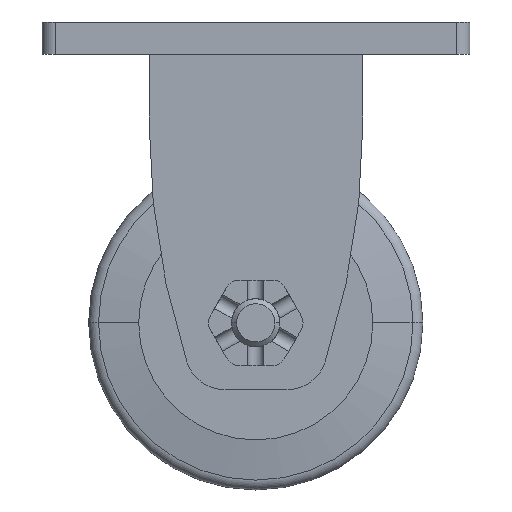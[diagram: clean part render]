
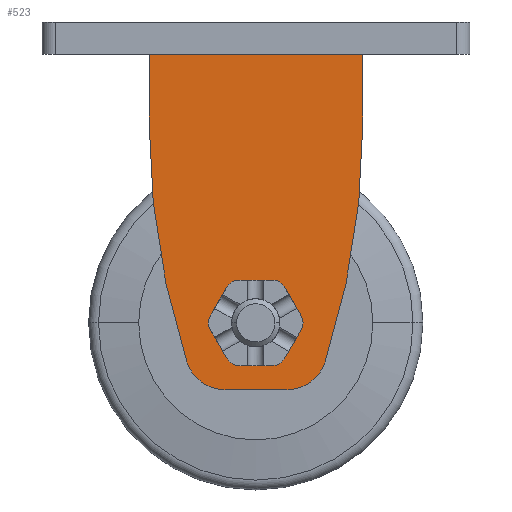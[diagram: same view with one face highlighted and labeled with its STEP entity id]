
A CAD part, front view. The second image highlights one B-rep face of the part: STEP entity #523.
In plain terms, the highlighted planar face has unit normal (0, -1, 0).
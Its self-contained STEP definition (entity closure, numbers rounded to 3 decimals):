
#523=ADVANCED_FACE('',(#1383,#1384),#869,.F.);
#869=PLANE('',#6803);
#1383=FACE_BOUND('',#1460,.T.);
#1384=FACE_BOUND('',#1461,.T.);
#1460=EDGE_LOOP('',(#2339,#2340,#2341,#2342,#2343,#2344,#2345,#2346));
#1461=EDGE_LOOP('',(#2347,#2348,#2349,#2350,#2351,#2352,#2353,#2354,#2355,
#2356,#2357,#2358));
#1897=CIRCLE('',#6793,15.);
#1898=CIRCLE('',#6794,15.);
#1899=CIRCLE('',#6795,294.);
#1900=CIRCLE('',#6796,294.);
#1901=CIRCLE('',#6797,5.);
#1902=CIRCLE('',#6798,5.);
#1903=CIRCLE('',#6799,5.);
#1904=CIRCLE('',#6800,5.);
#1905=CIRCLE('',#6801,5.);
#1906=CIRCLE('',#6802,5.);
#2339=ORIENTED_EDGE('',*,*,#4956,.F.);
#2340=ORIENTED_EDGE('',*,*,#4957,.T.);
#2341=ORIENTED_EDGE('',*,*,#4958,.F.);
#2342=ORIENTED_EDGE('',*,*,#4959,.F.);
#2343=ORIENTED_EDGE('',*,*,#4960,.T.);
#2344=ORIENTED_EDGE('',*,*,#4961,.T.);
#2345=ORIENTED_EDGE('',*,*,#4962,.T.);
#2346=ORIENTED_EDGE('',*,*,#4963,.F.);
#2347=ORIENTED_EDGE('',*,*,#4964,.F.);
#2348=ORIENTED_EDGE('',*,*,#4965,.F.);
#2349=ORIENTED_EDGE('',*,*,#4966,.F.);
#2350=ORIENTED_EDGE('',*,*,#4967,.F.);
#2351=ORIENTED_EDGE('',*,*,#4968,.F.);
#2352=ORIENTED_EDGE('',*,*,#4969,.F.);
#2353=ORIENTED_EDGE('',*,*,#4970,.F.);
#2354=ORIENTED_EDGE('',*,*,#4971,.F.);
#2355=ORIENTED_EDGE('',*,*,#4972,.F.);
#2356=ORIENTED_EDGE('',*,*,#4973,.F.);
#2357=ORIENTED_EDGE('',*,*,#4974,.F.);
#2358=ORIENTED_EDGE('',*,*,#4975,.F.);
#4275=VERTEX_POINT('',#9798);
#4276=VERTEX_POINT('',#9799);
#4277=VERTEX_POINT('',#9801);
#4278=VERTEX_POINT('',#9803);
#4279=VERTEX_POINT('',#9805);
#4280=VERTEX_POINT('',#9807);
#4281=VERTEX_POINT('',#9809);
#4282=VERTEX_POINT('',#9811);
#4283=VERTEX_POINT('',#9814);
#4284=VERTEX_POINT('',#9815);
#4285=VERTEX_POINT('',#9817);
#4286=VERTEX_POINT('',#9819);
#4287=VERTEX_POINT('',#9821);
#4288=VERTEX_POINT('',#9823);
#4289=VERTEX_POINT('',#9825);
#4290=VERTEX_POINT('',#9827);
#4291=VERTEX_POINT('',#9829);
#4292=VERTEX_POINT('',#9831);
#4293=VERTEX_POINT('',#9833);
#4294=VERTEX_POINT('',#9835);
#4956=EDGE_CURVE('',#4275,#4276,#1897,.T.);
#4957=EDGE_CURVE('',#4275,#4277,#5772,.T.);
#4958=EDGE_CURVE('',#4278,#4277,#1898,.T.);
#4959=EDGE_CURVE('',#4279,#4278,#1899,.T.);
#4960=EDGE_CURVE('',#4279,#4280,#5773,.T.);
#4961=EDGE_CURVE('',#4280,#4281,#5774,.T.);
#4962=EDGE_CURVE('',#4281,#4282,#5775,.T.);
#4963=EDGE_CURVE('',#4276,#4282,#1900,.T.);
#4964=EDGE_CURVE('',#4283,#4284,#5776,.T.);
#4965=EDGE_CURVE('',#4285,#4283,#1901,.T.);
#4966=EDGE_CURVE('',#4286,#4285,#5777,.T.);
#4967=EDGE_CURVE('',#4287,#4286,#1902,.T.);
#4968=EDGE_CURVE('',#4288,#4287,#5778,.T.);
#4969=EDGE_CURVE('',#4289,#4288,#1903,.T.);
#4970=EDGE_CURVE('',#4290,#4289,#5779,.T.);
#4971=EDGE_CURVE('',#4291,#4290,#1904,.T.);
#4972=EDGE_CURVE('',#4292,#4291,#5780,.T.);
#4973=EDGE_CURVE('',#4293,#4292,#1905,.T.);
#4974=EDGE_CURVE('',#4294,#4293,#5781,.T.);
#4975=EDGE_CURVE('',#4284,#4294,#1906,.T.);
#5772=LINE('',#9800,#6251);
#5773=LINE('',#9806,#6252);
#5774=LINE('',#9808,#6253);
#5775=LINE('',#9810,#6254);
#5776=LINE('',#9813,#6255);
#5777=LINE('',#9818,#6256);
#5778=LINE('',#9822,#6257);
#5779=LINE('',#9826,#6258);
#5780=LINE('',#9830,#6259);
#5781=LINE('',#9834,#6260);
#6251=VECTOR('',#7557,1.);
#6252=VECTOR('',#7562,1.);
#6253=VECTOR('',#7563,1.);
#6254=VECTOR('',#7564,1.);
#6255=VECTOR('',#7567,1.);
#6256=VECTOR('',#7570,1.);
#6257=VECTOR('',#7573,1.);
#6258=VECTOR('',#7576,1.);
#6259=VECTOR('',#7579,1.);
#6260=VECTOR('',#7582,1.);
#6793=AXIS2_PLACEMENT_3D('',#9797,#7555,#7556);
#6794=AXIS2_PLACEMENT_3D('',#9802,#7558,#7559);
#6795=AXIS2_PLACEMENT_3D('',#9804,#7560,#7561);
#6796=AXIS2_PLACEMENT_3D('',#9812,#7565,#7566);
#6797=AXIS2_PLACEMENT_3D('',#9816,#7568,#7569);
#6798=AXIS2_PLACEMENT_3D('',#9820,#7571,#7572);
#6799=AXIS2_PLACEMENT_3D('',#9824,#7574,#7575);
#6800=AXIS2_PLACEMENT_3D('',#9828,#7577,#7578);
#6801=AXIS2_PLACEMENT_3D('',#9832,#7580,#7581);
#6802=AXIS2_PLACEMENT_3D('',#9836,#7583,#7584);
#6803=AXIS2_PLACEMENT_3D('',#9837,#7585,#7586);
#7555=DIRECTION('',(0.,1.,0.));
#7556=DIRECTION('',(0.,0.,-1.));
#7557=DIRECTION('',(1.,0.,0.));
#7558=DIRECTION('',(0.,1.,0.));
#7559=DIRECTION('',(0.952,0.,-0.306));
#7560=DIRECTION('',(0.,1.,0.));
#7561=DIRECTION('',(1.,0.,0.));
#7562=DIRECTION('',(0.,0.,1.));
#7563=DIRECTION('',(-1.,0.,0.));
#7564=DIRECTION('',(0.,0.,-1.));
#7565=DIRECTION('',(0.,1.,0.));
#7566=DIRECTION('',(-0.952,0.,-0.306));
#7567=DIRECTION('',(-0.5,0.,0.866));
#7568=DIRECTION('',(0.,-1.,0.));
#7569=DIRECTION('',(0.866,0.,-0.5));
#7570=DIRECTION('',(0.5,0.,0.866));
#7571=DIRECTION('',(0.,-1.,0.));
#7572=DIRECTION('',(0.,0.,-1.));
#7573=DIRECTION('',(1.,0.,0.));
#7574=DIRECTION('',(0.,-1.,0.));
#7575=DIRECTION('',(-0.866,0.,-0.5));
#7576=DIRECTION('',(0.5,0.,-0.866));
#7577=DIRECTION('',(0.,-1.,0.));
#7578=DIRECTION('',(-0.866,0.,0.5));
#7579=DIRECTION('',(-0.5,0.,-0.866));
#7580=DIRECTION('',(0.,-1.,0.));
#7581=DIRECTION('',(0.,0.,1.));
#7582=DIRECTION('',(-1.,0.,0.));
#7583=DIRECTION('',(0.,-1.,0.));
#7584=DIRECTION('',(0.866,0.,0.5));
#7585=DIRECTION('',(0.,1.,0.));
#7586=DIRECTION('',(-1.,0.,0.));
#9797=CARTESIAN_POINT('',(-11.591,-51.5,-35.));
#9798=CARTESIAN_POINT('',(-11.591,-51.5,-50.));
#9799=CARTESIAN_POINT('',(-25.87,-51.5,-39.594));
#9800=CARTESIAN_POINT('',(-11.591,-51.5,-50.));
#9801=CARTESIAN_POINT('',(11.591,-51.5,-50.));
#9802=CARTESIAN_POINT('',(11.591,-51.5,-35.));
#9803=CARTESIAN_POINT('',(25.87,-51.5,-39.594));
#9804=CARTESIAN_POINT('',(-254.,-51.5,50.455));
#9805=CARTESIAN_POINT('',(40.,-51.5,50.455));
#9806=CARTESIAN_POINT('',(40.,-51.5,50.455));
#9807=CARTESIAN_POINT('',(40.,-51.5,75.5));
#9808=CARTESIAN_POINT('',(40.,-51.5,75.5));
#9809=CARTESIAN_POINT('',(-40.,-51.5,75.5));
#9810=CARTESIAN_POINT('',(-40.,-51.5,75.5));
#9811=CARTESIAN_POINT('',(-40.,-51.5,50.455));
#9812=CARTESIAN_POINT('',(254.,-51.5,50.455));
#9813=CARTESIAN_POINT('',(16.942,-51.5,-22.5));
#9814=CARTESIAN_POINT('',(16.942,-51.5,-22.5));
#9815=CARTESIAN_POINT('',(10.591,-51.5,-11.5));
#9816=CARTESIAN_POINT('',(12.612,-51.5,-25.));
#9817=CARTESIAN_POINT('',(16.942,-51.5,-27.5));
#9818=CARTESIAN_POINT('',(10.591,-51.5,-38.5));
#9819=CARTESIAN_POINT('',(10.591,-51.5,-38.5));
#9820=CARTESIAN_POINT('',(6.261,-51.5,-36.));
#9821=CARTESIAN_POINT('',(6.261,-51.5,-41.));
#9822=CARTESIAN_POINT('',(-6.441,-51.5,-41.));
#9823=CARTESIAN_POINT('',(-6.441,-51.5,-41.));
#9824=CARTESIAN_POINT('',(-6.441,-51.5,-36.));
#9825=CARTESIAN_POINT('',(-10.771,-51.5,-38.5));
#9826=CARTESIAN_POINT('',(-17.122,-51.5,-27.5));
#9827=CARTESIAN_POINT('',(-17.122,-51.5,-27.5));
#9828=CARTESIAN_POINT('',(-12.792,-51.5,-25.));
#9829=CARTESIAN_POINT('',(-17.122,-51.5,-22.5));
#9830=CARTESIAN_POINT('',(-10.771,-51.5,-11.5));
#9831=CARTESIAN_POINT('',(-10.771,-51.5,-11.5));
#9832=CARTESIAN_POINT('',(-6.441,-51.5,-14.));
#9833=CARTESIAN_POINT('',(-6.441,-51.5,-9.));
#9834=CARTESIAN_POINT('',(6.261,-51.5,-9.));
#9835=CARTESIAN_POINT('',(6.261,-51.5,-9.));
#9836=CARTESIAN_POINT('',(6.261,-51.5,-14.));
#9837=CARTESIAN_POINT('',(0.,-51.5,87.5));
